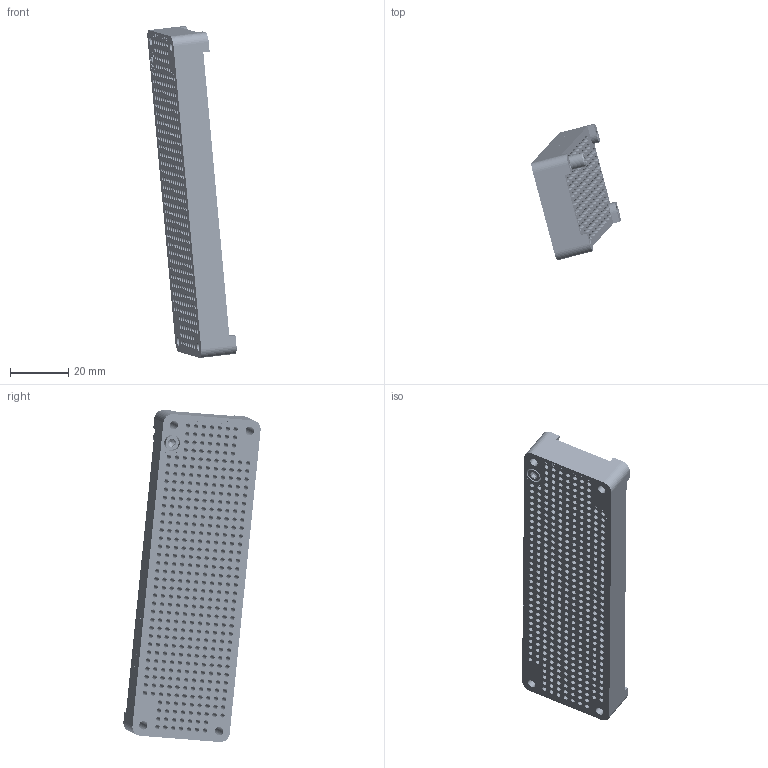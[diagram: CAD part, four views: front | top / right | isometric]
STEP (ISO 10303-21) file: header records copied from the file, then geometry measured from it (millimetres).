
FILE_DESCRIPTION((''),'2;1');
FILE_NAME('C:\old_Drawings\shrinkwrapped website .stp files\30200390M-03-STP.stp','2011-11-02T16:27:37',('GaryRobinson'),(''),'Autodesk Inventor 2011','Autodesk Inventor 2011','');
FILE_SCHEMA(('AUTOMOTIVE_DESIGN { 1 0 10303 214 1 1 1 1 }'));
Length unit declared in the file: inch
Products named in the file (1): 30200390M-03-STP
Bounding box: 30.63 x 47.1 x 113.91 mm (x, y, z)
Surface area: 32899.1 mm2 (no closed solid volume)
Topology: 0 solids, 3 shells, 1863 faces, 4208 edges, 2806 vertices
Faces by surface type: cylinder 801, plane 800, bspline 257, cone 5
Full cylindrical faces by diameter (mm): 1.524 x390, 2.032 x390, 2.159 x1, 2.946 x4, 3.175 x1, 4.648 x1, 4.763 x1, 4.877 x1, 5.563 x1
Entity records: 54563 total; most frequent: CARTESIAN_POINT 12506, DIRECTION 7700, ORIENTED_EDGE 6812, EDGE_LOOP 3905, EDGE_CURVE 3406, AXIS2_PLACEMENT_3D 3217, VERTEX_POINT 2799, FACE_BOUND 2042
